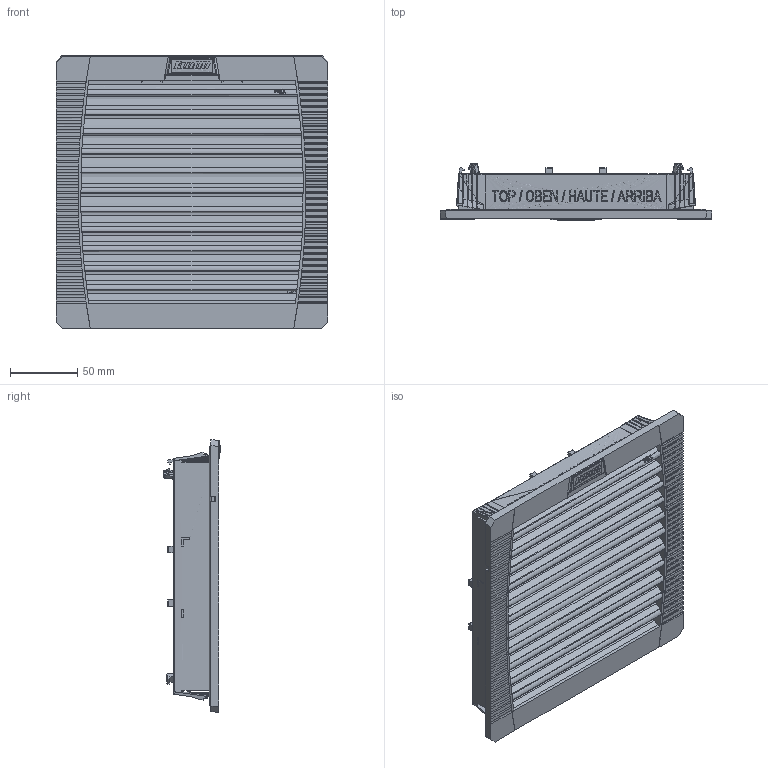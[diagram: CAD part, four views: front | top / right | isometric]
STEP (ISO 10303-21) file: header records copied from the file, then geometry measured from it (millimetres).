
FILE_DESCRIPTION (( 'STEP AP203' ), '1' );
FILE_NAME ('EFA220R5_V2.step', '2013-02-08T09:18:25', ( '' ), ( '' ), 'SwSTEP 2.0', 'SolidWorks 2011', '' );
FILE_SCHEMA (( 'CONFIG_CONTROL_DESIGN' ));
Products named in the file (1): EFA220R5_V2
Bounding box: 202.5 x 41.99 x 202.94 mm (x, y, z)
Surface area: 233236.4 mm2 (no closed solid volume)
Topology: 0 solids, 16 shells, 1592 faces, 5554 edges, 3468 vertices
Faces by surface type: plane 667, cylinder 535, bspline 386, cone 4
Entity records: 90704 total; most frequent: CARTESIAN_POINT 52333, ORIENTED_EDGE 9148, DIRECTION 5453, EDGE_CURVE 5191, VERTEX_POINT 3454, B_SPLINE_CURVE_WITH_KNOTS 2439, LINE 2229, VECTOR 2229
